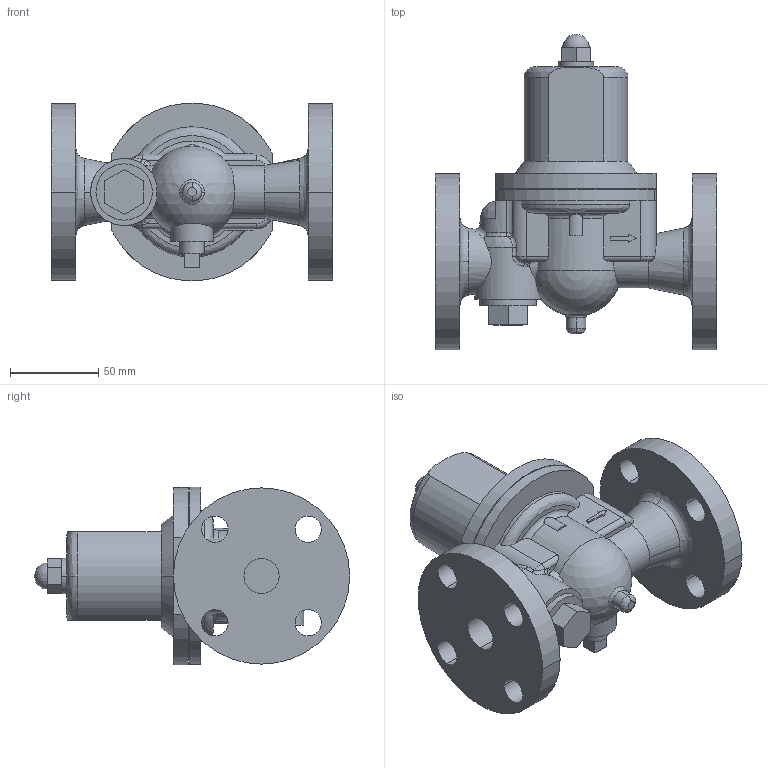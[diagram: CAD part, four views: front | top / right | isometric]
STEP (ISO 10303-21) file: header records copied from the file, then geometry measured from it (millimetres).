
FILE_DESCRIPTION( (''), '2;1');
FILE_NAME ('PC2091.22452.GD-27S 20A_12081.stp','2026-03-27T11:59:53',(''),(''),'spGate 21.9.4 (****-****-****-****)','','');
FILE_SCHEMA (('AUTOMOTIVE_DESIGN'));
Length unit declared in the file: millimetre
Bounding box: 160 x 178.95 x 100.65 mm (x, y, z)
Volume: 742600.1 mm3; surface area: 97754.6 mm2
Topology: 1 solids, 1 shells, 188 faces, 494 edges, 322 vertices
Faces by surface type: plane 75, cylinder 69, bspline 42, sphere 2
Entity records: 12519 total; most frequent: CARTESIAN_POINT 4236, ORIENTED_EDGE 982, DIRECTION 852, COLOUR_RGB 680, PRESENTATION_STYLE_ASSIGNMENT 680, STYLED_ITEM 680, EDGE_CURVE 491, DRAUGHTING_PRE_DEFINED_CURVE_FONT 491
